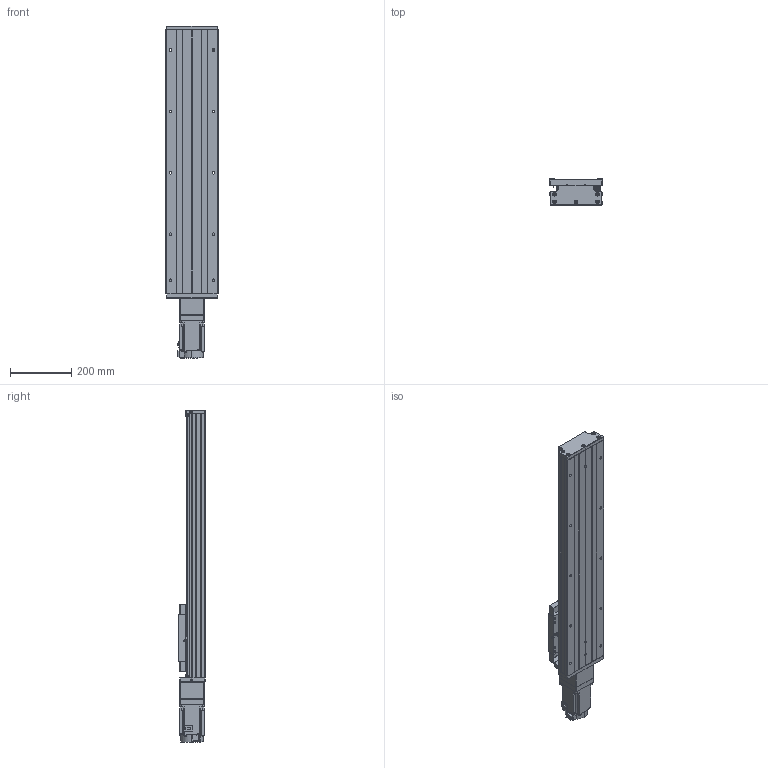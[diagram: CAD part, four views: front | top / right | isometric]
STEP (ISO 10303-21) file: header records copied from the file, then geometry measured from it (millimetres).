
FILE_DESCRIPTION (( 'STEP AP203' ), '1' );
FILE_NAME ('GTH17-600-BC-M75-C4.step', '2023-06-30T11:22:22', ( '微软用户' ), ( '微软中国' ), 'SwSTEP 2.0', 'SolidWorks 2020', '' );
FILE_SCHEMA (( 'CONFIG_CONTROL_DESIGN' ));
Length unit declared in the file: millimetre
Products named in the file (20): GTH17-027-1; GB1155-6X6; GTH17-031; HG-KN73J-S100; CTHA60-017; GBT 70.2-M3¡Á5_M3¡Á6; GTH17-600-BC-M75-C4; EE_SX911P_R; す晦芛蹟隊 M3℅5; GTH17-001_600; CTHA60-016; GBT 70.3-M3℅8; GTH17-002_GTH17-002; GBT 70.1-M3℅5; GTH17-006-2_M75; GTH17-004; GBT77-2000 M3×3; GTH17-013; GTH17-005; GBT 70.1-M6¡Á20_M6¡Á20
Assembly tree (57 placements, depth 2):
  GTH17-600-BC-M75-C4
    GTH17-001_600
    GTH17-002_GTH17-002
    GTH17-004
    GTH17-005
    GB1155-6X6  x2
    CTHA60-017  x3
    EE_SX911P_R  x3
    CTHA60-016  x2
    GBT 70.1-M3℅5  x6
    GBT77-2000 M3×3  x6
    GBT 70.1-M6¡Á20_M6¡Á20  x10
    GTH17-031
    GBT 70.2-M3¡Á5_M3¡Á6  x8
    す晦芛蹟隊 M3℅5  x6
    GBT 70.3-M3℅8  x2
    GTH17-006-2_M75
    GTH17-013
    GTH17-027-1
    HG-KN73J-S100
Bounding box: 171 x 87 x 1081.2 mm (x, y, z)
Volume: 8179561.8 mm3; surface area: 1077855.8 mm2
Topology: 60 solids, 60 shells, 2404 faces, 5749 edges, 3563 vertices
Faces by surface type: plane 1303, cylinder 654, cone 287, torus 120, sphere 20, bspline 20
Entity records: 44837 total; most frequent: CARTESIAN_POINT 10377, DIRECTION 6477, ORIENTED_EDGE 6414, EDGE_CURVE 3207, AXIS2_PLACEMENT_3D 2197, VECTOR 2083, LINE 2083, VERTEX_POINT 2031
